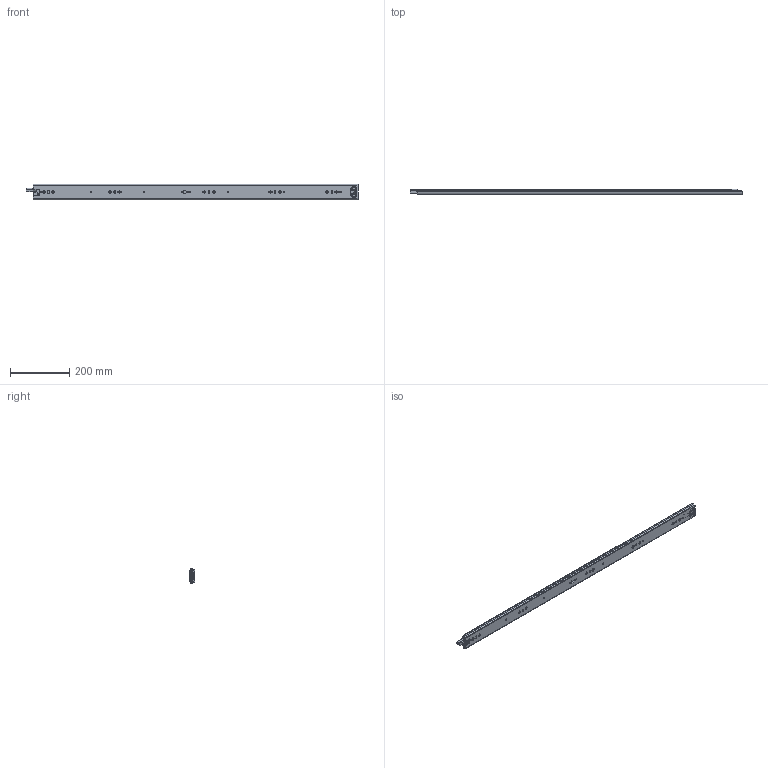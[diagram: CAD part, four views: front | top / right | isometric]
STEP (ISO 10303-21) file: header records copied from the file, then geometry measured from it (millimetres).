
FILE_DESCRIPTION((''),'2;1');
FILE_NAME('1053-3S-44YOU_ASM','2023-04-12T',('jishu015'),(''),'PRO/ENGINEER BY PARAMETRIC TECHNOLOGY CORPORATION, 2010280','PRO/ENGINEER BY PARAMETRIC TECHNOLOGY CORPORATION, 2010280','');
FILE_SCHEMA(('CONFIG_CONTROL_DESIGN'));
Products named in the file (20): 1053-02-18WAIKE________________; 1053WEIJIAO________________; 1053-3S-24WAIKE_________________ASM; 1053ZHUTIAO-175________________; 53-5-6GANZHU________________; 1053ZHUTIAO-175MM21__ASM; 1053-02-18ZHONGGUI1__; ZHONGGUIPEIJIAN______________; ZHONGGUISUOKOU______________; 1053-02-18ZHONGGUI1___ASM; 1053XIAOZHUJIA-14GE1___; 1053XIAOZHUJIA-14GE1____ASM; 1053-02-18NEIGU22; DAOPIAN____________; PIAN____________; 1053-3SBANJI123___________; JIAO-11___________; 50XINSUOKOU11__________; 1053-02-18NEIGUI11_ASM; 1053-3S-44YOU_ASM
Assembly tree (119 placements, depth 3):
  1053-3S-44YOU_ASM
    1053-3S-24WAIKE_________________ASM
      1053-02-18WAIKE________________
      1053WEIJIAO________________
    1053ZHUTIAO-175MM21__ASM  x2
      1053ZHUTIAO-175________________
      53-5-6GANZHU________________
    1053-02-18ZHONGGUI1___ASM
      1053-02-18ZHONGGUI1__
      ZHONGGUIPEIJIAN______________
      ZHONGGUISUOKOU______________
    1053XIAOZHUJIA-14GE1____ASM
      1053XIAOZHUJIA-14GE1___
      53-5-6GANZHU________________  x80
    1053-02-18NEIGUI11_ASM
      1053-02-18NEIGU22
      DAOPIAN____________
      PIAN____________
      1053-3SBANJI123___________
      JIAO-11___________
      50XINSUOKOU11__________
Bounding box: 1125.42 x 18.7 x 53 mm (x, y, z)
Volume: 422148.9 mm3; surface area: 489545.8 mm2
Topology: 135 solids, 135 shells, 3102 faces, 9016 edges, 5601 vertices
Faces by surface type: cylinder 1381, plane 1227, sphere 248, bspline 121, cone 86, extrusion 23, torus 16
Entity records: 97847 total; most frequent: CARTESIAN_POINT 23243, ORIENTED_EDGE 15810, DIRECTION 15388, EDGE_CURVE 7905, AXIS2_PLACEMENT_3D 5316, VERTEX_POINT 5107, VECTOR 4756, LINE 4733
